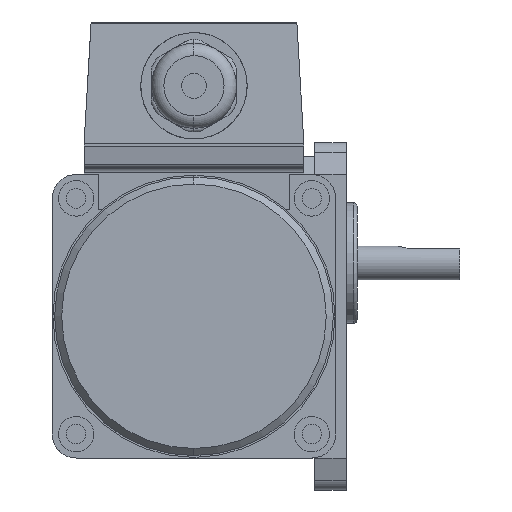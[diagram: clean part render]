
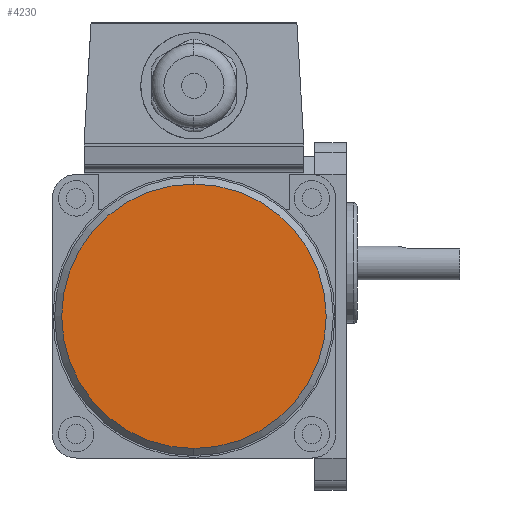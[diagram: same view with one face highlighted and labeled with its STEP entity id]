
A CAD part, left-side view. The second image highlights one B-rep face of the part: STEP entity #4230.
In plain terms, the highlighted planar face has unit normal (-1, 0, 0).
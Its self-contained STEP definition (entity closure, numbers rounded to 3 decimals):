
#4210=CARTESIAN_POINT('POINT242225',(-146.,43.,22.3));
#4211=VERTEX_POINT('VERTEX242225',#4210);
#4212=CARTESIAN_POINT('POINT242226',(-146.,43.,-52.3));
#4213=VERTEX_POINT('VERTEX242226',#4212);
#4214=CARTESIAN_POINT('POS410259',(-146.,43.,-15.));
#4215=DIRECTION('DIR622827',(1.,0.,0.));
#4216=DIRECTION('DIR622828',(0.,0.,1.));
#4217=AXIS2_PLACEMENT_3D('AXIS212569',#4214,#4215,#4216);
#4218=CIRCLE('ELLIPSE100404',#4217,37.3);
#4219=EDGE_CURVE('EDGE370226',#4211,#4213,#4218,.T.);
#4220=ORIENTED_EDGE('COEDGE740515',*,*,#4219,.F.);
#4221=EDGE_CURVE('EDGE370227',#4213,#4211,#4218,.T.);
#4222=ORIENTED_EDGE('COEDGE740516',*,*,#4221,.F.);
#4223=EDGE_LOOP('NONE',(#4220,#4222));
#4224=FACE_BOUND('LOOP1',#4223,.T.);
#4225=CARTESIAN_POINT('POS410260',(-146.,43.,
   3.65));
#4226=DIRECTION('DIR622829',(-1.,0.,0.));
#4227=DIRECTION('DIR622830',(0.,1.,0.));
#4228=AXIS2_PLACEMENT_3D('AXIS212570',#4225,#4226,#4227);
#4229=PLANE('PLANE65804',#4228);
#4230=ADVANCED_FACE('FACE153830',(#4224),#4229,.T.);
